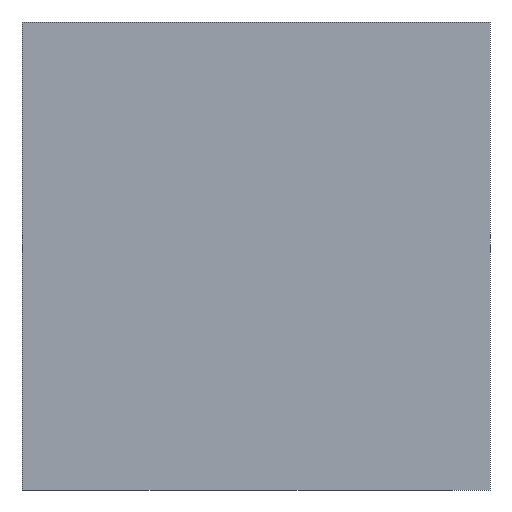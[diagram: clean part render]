
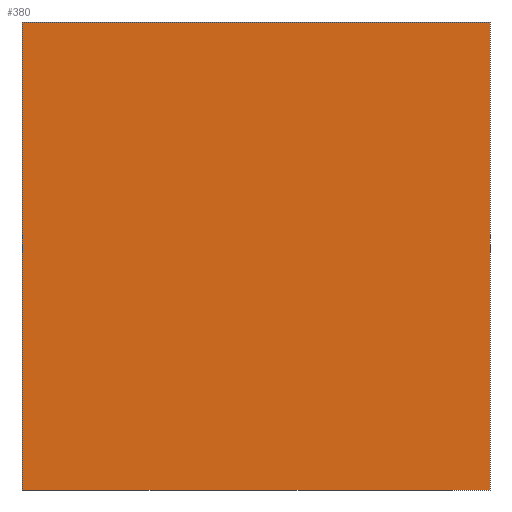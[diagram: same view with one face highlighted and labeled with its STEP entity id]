
A CAD part, left-side view. The second image highlights one B-rep face of the part: STEP entity #380.
In plain terms, the highlighted planar face has unit normal (-1, 0, 0).
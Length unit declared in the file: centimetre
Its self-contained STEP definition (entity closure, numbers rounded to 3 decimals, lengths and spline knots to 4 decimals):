
#33 = CARTESIAN_POINT ( 'NONE',  ( 0., 1000., 1000. ) ) ;
#36 = CARTESIAN_POINT ( 'NONE',  ( 0., 1000., 1000. ) ) ;
#46 = VECTOR ( 'NONE', #550, 100. ) ;
#66 = FACE_OUTER_BOUND ( 'NONE', #145, .T. ) ;
#83 = LINE ( 'NONE', #347, #260 ) ;
#110 = CARTESIAN_POINT ( 'NONE',  ( 0., 1000., 1000. ) ) ;
#131 = DIRECTION ( 'NONE',  ( 0., -1., 0. ) ) ;
#140 = EDGE_CURVE ( 'NONE', #369, #223, #83, .T. ) ;
#145 = EDGE_LOOP ( 'NONE', ( #425, #284, #363, #338 ) ) ;
#148 = VERTEX_POINT ( 'NONE', #33 ) ;
#169 = PLANE ( 'NONE',  #320 ) ;
#203 = VERTEX_POINT ( 'NONE', #545 ) ;
#221 = CARTESIAN_POINT ( 'NONE',  ( 0., 0., 1000. ) ) ;
#222 = CARTESIAN_POINT ( 'NONE',  ( 0., 0., 0. ) ) ;
#223 = VERTEX_POINT ( 'NONE', #222 ) ;
#224 = EDGE_CURVE ( 'NONE', #148, #203, #311, .T. ) ;
#227 = LINE ( 'NONE', #221, #46 ) ;
#246 = CARTESIAN_POINT ( 'NONE',  ( 0., 1000., 0. ) ) ;
#259 = DIRECTION ( 'NONE',  ( 0., -1., 0. ) ) ;
#260 = VECTOR ( 'NONE', #259, 100. ) ;
#284 = ORIENTED_EDGE ( 'NONE', *, *, #565, .F. ) ;
#311 = LINE ( 'NONE', #36, #394 ) ;
#320 = AXIS2_PLACEMENT_3D ( 'NONE', #110, #496, #411 ) ;
#338 = ORIENTED_EDGE ( 'NONE', *, *, #432, .T. ) ;
#347 = CARTESIAN_POINT ( 'NONE',  ( 0., 1000., 0. ) ) ;
#363 = ORIENTED_EDGE ( 'NONE', *, *, #224, .F. ) ;
#369 = VERTEX_POINT ( 'NONE', #246 ) ;
#380 = ADVANCED_FACE ( 'NONE', ( #66 ), #169, .F. ) ;
#394 = VECTOR ( 'NONE', #131, 100. ) ;
#400 = VECTOR ( 'NONE', #467, 100. ) ;
#411 = DIRECTION ( 'NONE',  ( 0., 0., -1. ) ) ;
#425 = ORIENTED_EDGE ( 'NONE', *, *, #140, .T. ) ;
#432 = EDGE_CURVE ( 'NONE', #148, #369, #454, .T. ) ;
#454 = LINE ( 'NONE', #539, #400 ) ;
#467 = DIRECTION ( 'NONE',  ( 0., 0., -1. ) ) ;
#496 = DIRECTION ( 'NONE',  ( 1., 0., 0. ) ) ;
#539 = CARTESIAN_POINT ( 'NONE',  ( 0., 1000., 1000. ) ) ;
#545 = CARTESIAN_POINT ( 'NONE',  ( 0., 0., 1000. ) ) ;
#550 = DIRECTION ( 'NONE',  ( 0., 0., -1. ) ) ;
#565 = EDGE_CURVE ( 'NONE', #203, #223, #227, .T. ) ;
